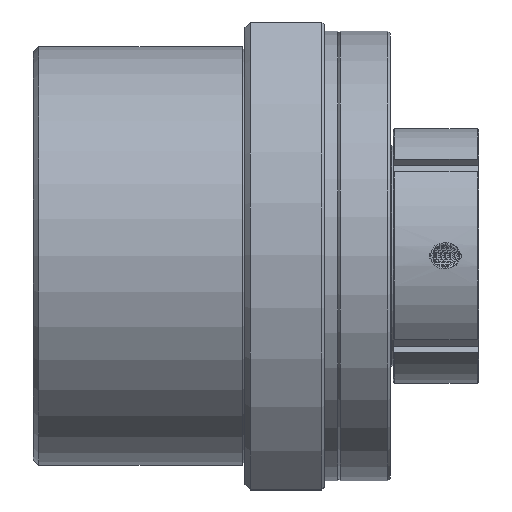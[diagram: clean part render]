
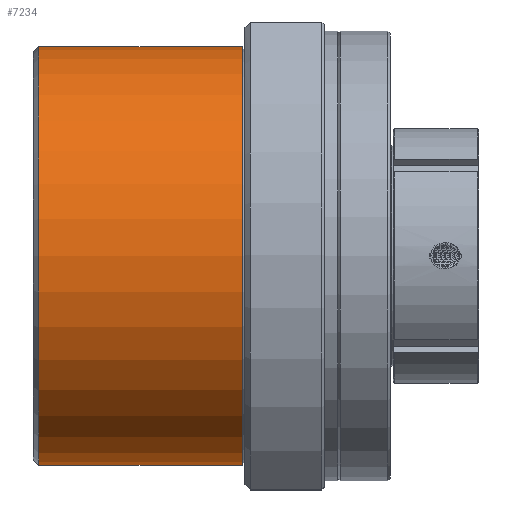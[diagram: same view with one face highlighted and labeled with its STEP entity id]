
A CAD part, top view. The second image highlights one B-rep face of the part: STEP entity #7234.
In plain terms, the highlighted cylindrical face has radius 47.5 mm (diameter 95 mm), a full revolution.
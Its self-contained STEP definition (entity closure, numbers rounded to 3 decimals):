
#6188=EDGE_CURVE('',#15272,#15272,#15273,.T.);
#7234=ADVANCED_FACE('',(#16889,#16890),#16891,.T.);
#8790=EDGE_CURVE('',#19178,#19178,#19179,.T.);
#15272=VERTEX_POINT('',#29995);
#15273=CIRCLE('',#29996,47.5);
#16889=FACE_OUTER_BOUND('',#32982,.T.);
#16890=FACE_OUTER_BOUND('',#32983,.T.);
#16891=CYLINDRICAL_SURFACE('',#32984,47.5);
#19178=VERTEX_POINT('',#37681);
#19179=CIRCLE('',#37682,47.5);
#29995=CARTESIAN_POINT('',(1.2,0.0,47.5));
#29996=AXIS2_PLACEMENT_3D('',#48618,#48619,#48620);
#32982=EDGE_LOOP('',(#50624));
#32983=EDGE_LOOP('',(#50625));
#32984=AXIS2_PLACEMENT_3D('',#50626,#50627,#50628);
#37681=CARTESIAN_POINT('',(47.4,0.0,47.5));
#37682=AXIS2_PLACEMENT_3D('',#53567,#53568,#53569);
#48618=CARTESIAN_POINT('',(1.2,0.0,0.0));
#48619=DIRECTION('',(1.0,0.0,-0.0));
#48620=DIRECTION('',(0.0,0.0,1.0));
#50624=ORIENTED_EDGE('',*,*,#6188,.T.);
#50625=ORIENTED_EDGE('',*,*,#8790,.F.);
#50626=CARTESIAN_POINT('',(24.3,0.0,0.0));
#50627=DIRECTION('',(-1.0,0.0,0.0));
#50628=DIRECTION('',(0.0,0.0,1.0));
#53567=CARTESIAN_POINT('',(47.4,0.0,0.0));
#53568=DIRECTION('',(1.0,0.0,-0.0));
#53569=DIRECTION('',(0.0,0.0,1.0));
